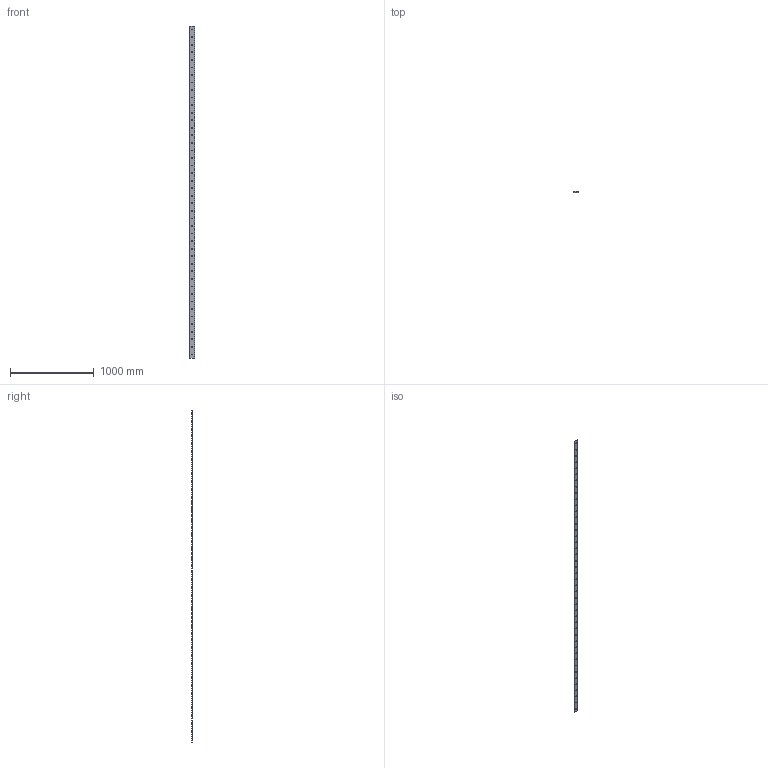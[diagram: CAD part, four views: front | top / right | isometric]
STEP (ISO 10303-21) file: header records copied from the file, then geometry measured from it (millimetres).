
FILE_DESCRIPTION(('STEP AP203'),'1');
FILE_NAME('flat_slide_ssm603956.stp','2021-10-13T02:19:23',('TraceParts'),('TraceParts S.A.'),'Spatial InterOp 3D',' ',' ');
FILE_SCHEMA(('CONFIG_CONTROL_DESIGN'));
Length unit declared in the file: millimetre
Products named in the file (1): 1
Bounding box: 59.68 x 6.1 x 3956 mm (x, y, z)
Volume: 1343114.5 mm3; surface area: 493393.6 mm2
Topology: 1 solids, 1 shells, 100 faces, 294 edges, 196 vertices
Faces by surface type: cylinder 92, plane 8
Entity records: 3662 total; most frequent: DIRECTION 680, CARTESIAN_POINT 591, ORIENTED_EDGE 588, EDGE_CURVE 294, AXIS2_PLACEMENT_3D 285, VERTEX_POINT 196, EDGE_LOOP 188, CIRCLE 184
